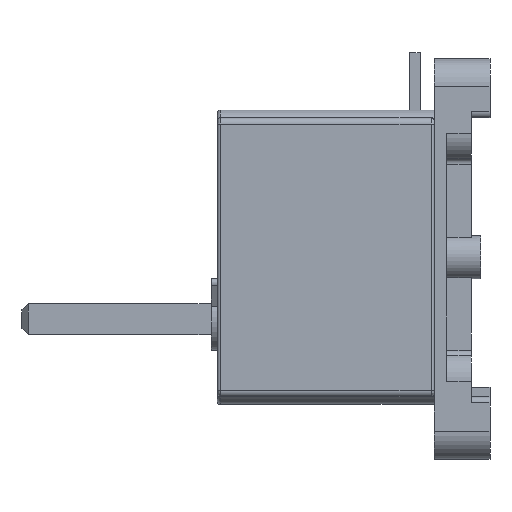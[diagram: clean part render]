
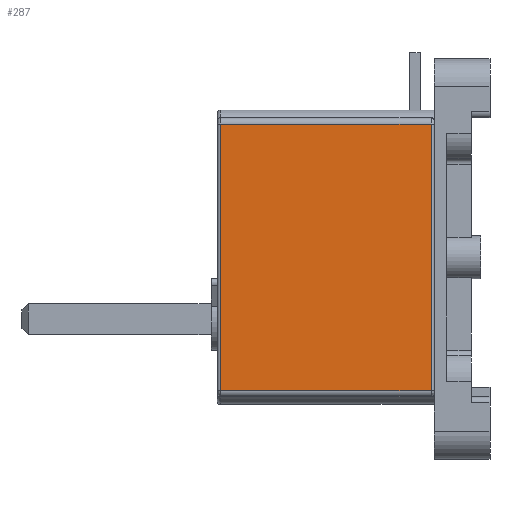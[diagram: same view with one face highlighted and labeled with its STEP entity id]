
A CAD part, left-side view. The second image highlights one B-rep face of the part: STEP entity #287.
In plain terms, the highlighted planar face has unit normal (-1, 0, 0).
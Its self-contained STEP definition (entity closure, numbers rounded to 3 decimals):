
#287=ADVANCED_FACE('',(#593),#485,.F.);
#485=PLANE('',#3699);
#593=FACE_OUTER_BOUND('',#752,.T.);
#752=EDGE_LOOP('',(#1741,#1742,#1743,#1744));
#1070=LINE('',#5448,#1375);
#1071=LINE('',#5454,#1376);
#1072=LINE('',#5457,#1377);
#1073=LINE('',#5458,#1378);
#1375=VECTOR('',#4203,1.);
#1376=VECTOR('',#4210,1.);
#1377=VECTOR('',#4211,1.);
#1378=VECTOR('',#4212,1.);
#1741=ORIENTED_EDGE('',*,*,#3059,.F.);
#1742=ORIENTED_EDGE('',*,*,#3060,.T.);
#1743=ORIENTED_EDGE('',*,*,#3056,.T.);
#1744=ORIENTED_EDGE('',*,*,#3061,.T.);
#2708=VERTEX_POINT('',#5449);
#2709=VERTEX_POINT('',#5450);
#2710=VERTEX_POINT('',#5455);
#2711=VERTEX_POINT('',#5456);
#3056=EDGE_CURVE('',#2708,#2709,#1070,.T.);
#3059=EDGE_CURVE('',#2710,#2711,#1071,.T.);
#3060=EDGE_CURVE('',#2710,#2708,#1072,.T.);
#3061=EDGE_CURVE('',#2709,#2711,#1073,.T.);
#3699=AXIS2_PLACEMENT_3D('',#5459,#4213,#4214);
#4203=DIRECTION('',(0.,-1.,0.));
#4210=DIRECTION('',(0.,-1.,0.));
#4211=DIRECTION('',(0.,0.,-1.));
#4212=DIRECTION('',(0.,0.,1.));
#4213=DIRECTION('',(1.,0.,0.));
#4214=DIRECTION('',(0.,0.,-1.));
#5448=CARTESIAN_POINT('',(-41.,35.,-43.));
#5449=CARTESIAN_POINT('',(-41.,69.,-43.));
#5450=CARTESIAN_POINT('',(-41.,1.,-43.));
#5454=CARTESIAN_POINT('',(-41.,35.,43.));
#5455=CARTESIAN_POINT('',(-41.,69.,43.));
#5456=CARTESIAN_POINT('',(-41.,1.,43.));
#5457=CARTESIAN_POINT('',(-41.,69.,-43.));
#5458=CARTESIAN_POINT('',(-41.,1.,-43.));
#5459=CARTESIAN_POINT('',(-41.,35.,-43.));
